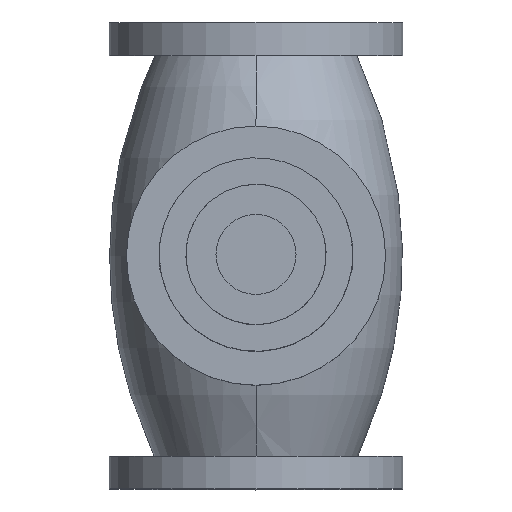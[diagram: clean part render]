
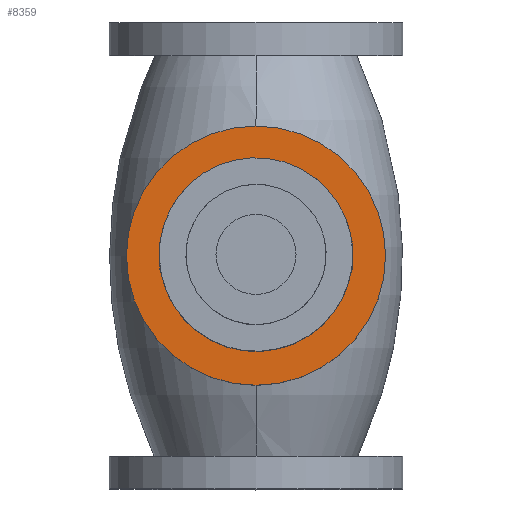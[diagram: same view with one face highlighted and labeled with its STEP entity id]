
A CAD part, top view. The second image highlights one B-rep face of the part: STEP entity #8359.
In plain terms, the highlighted planar face has unit normal (0, 0, 1).
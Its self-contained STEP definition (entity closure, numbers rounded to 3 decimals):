
#159 = DIRECTION ( 'NONE',  ( 0., 0., -1. ) ) ;
#507 = CIRCLE ( 'NONE', #6813, 21. ) ;
#572 = CIRCLE ( 'NONE', #7533, 97. ) ;
#781 = CARTESIAN_POINT ( 'NONE',  ( 72.5, -78., -450.5 ) ) ;
#981 = CARTESIAN_POINT ( 'NONE',  ( 72.5, -175., -450.5 ) ) ;
#1116 = EDGE_CURVE ( 'NONE', #4237, #3406, #572, .T. ) ;
#1584 = CARTESIAN_POINT ( 'NONE',  ( 72.5, -175., -450.5 ) ) ;
#2107 = CIRCLE ( 'NONE', #6751, 21. ) ;
#2313 = CARTESIAN_POINT ( 'NONE',  ( 72.5, -175., -450.5 ) ) ;
#2375 = EDGE_LOOP ( 'NONE', ( #9279, #8972 ) ) ;
#3040 = FACE_OUTER_BOUND ( 'NONE', #2375, .T. ) ;
#3250 = DIRECTION ( 'NONE',  ( 0., 0., -1. ) ) ;
#3312 = VERTEX_POINT ( 'NONE', #6132 ) ;
#3406 = VERTEX_POINT ( 'NONE', #781 ) ;
#3663 = FACE_BOUND ( 'NONE', #8624, .T. ) ;
#4237 = VERTEX_POINT ( 'NONE', #6223 ) ;
#4372 = CARTESIAN_POINT ( 'NONE',  ( 91.901, -166.964, -450.5 ) ) ;
#4620 = EDGE_CURVE ( 'NONE', #3406, #4237, #10105, .T. ) ;
#4715 = VERTEX_POINT ( 'NONE', #4372 ) ;
#5710 = CARTESIAN_POINT ( 'NONE',  ( 72.5, -175., -450.5 ) ) ;
#5726 = DIRECTION ( 'NONE',  ( 0., 0., -1. ) ) ;
#6125 = EDGE_CURVE ( 'NONE', #3312, #4715, #507, .T. ) ;
#6132 = CARTESIAN_POINT ( 'NONE',  ( 53.099, -183.036, -450.5 ) ) ;
#6223 = CARTESIAN_POINT ( 'NONE',  ( 72.5, -272., -450.5 ) ) ;
#6300 = ORIENTED_EDGE ( 'NONE', *, *, #7164, .T. ) ;
#6350 = DIRECTION ( 'NONE',  ( 0., -1., 0. ) ) ;
#6751 = AXIS2_PLACEMENT_3D ( 'NONE', #5710, #8054, #9654 ) ;
#6813 = AXIS2_PLACEMENT_3D ( 'NONE', #1584, #3250, #7105 ) ;
#7105 = DIRECTION ( 'NONE',  ( 0., -1., 0. ) ) ;
#7153 = PLANE ( 'NONE',  #10088 ) ;
#7164 = EDGE_CURVE ( 'NONE', #4715, #3312, #2107, .T. ) ;
#7533 = AXIS2_PLACEMENT_3D ( 'NONE', #981, #159, #6350 ) ;
#7949 = ORIENTED_EDGE ( 'NONE', *, *, #6125, .T. ) ;
#8054 = DIRECTION ( 'NONE',  ( 0., 0., -1. ) ) ;
#8165 = CARTESIAN_POINT ( 'NONE',  ( 72.5, -175., -450.5 ) ) ;
#8359 = ADVANCED_FACE ( 'NONE', ( #3663, #3040 ), #7153, .T. ) ;
#8624 = EDGE_LOOP ( 'NONE', ( #7949, #6300 ) ) ;
#8711 = DIRECTION ( 'NONE',  ( 0., -1., 0. ) ) ;
#8972 = ORIENTED_EDGE ( 'NONE', *, *, #1116, .F. ) ;
#9051 = DIRECTION ( 'NONE',  ( 0., -1., 0. ) ) ;
#9279 = ORIENTED_EDGE ( 'NONE', *, *, #4620, .F. ) ;
#9370 = DIRECTION ( 'NONE',  ( 0., 0., 1. ) ) ;
#9654 = DIRECTION ( 'NONE',  ( 0., -1., 0. ) ) ;
#9937 = AXIS2_PLACEMENT_3D ( 'NONE', #8165, #5726, #9051 ) ;
#10088 = AXIS2_PLACEMENT_3D ( 'NONE', #2313, #9370, #8711 ) ;
#10105 = CIRCLE ( 'NONE', #9937, 97. ) ;
